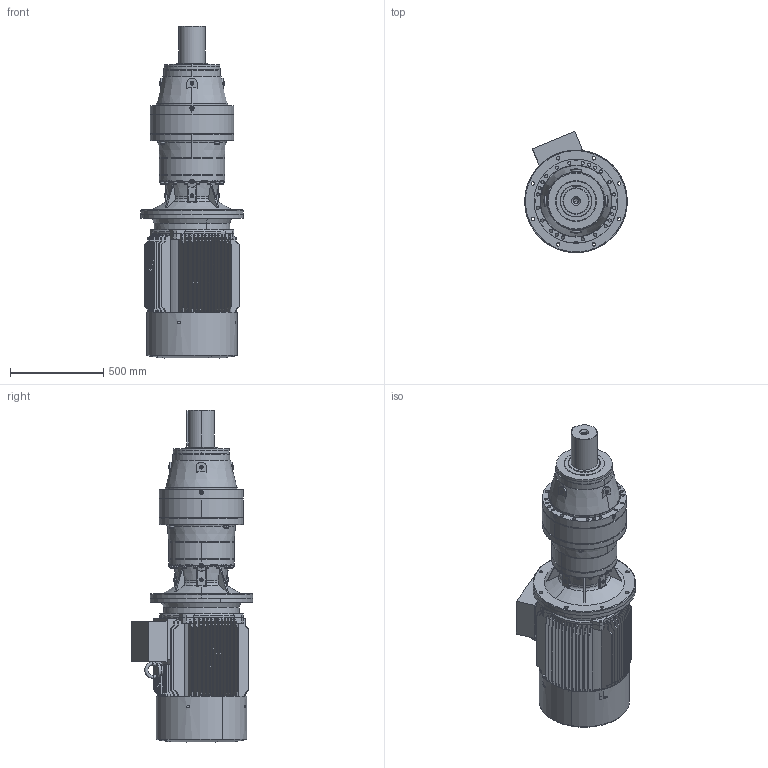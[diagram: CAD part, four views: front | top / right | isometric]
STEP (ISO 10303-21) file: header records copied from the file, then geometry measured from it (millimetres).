
FILE_DESCRIPTION (( 'STEP AP203' ), '1' );
FILE_NAME ('PVL-3502L-HS250-4.STEP', '2019-05-22T08:23:41', ( '' ), ( '' ), 'SwSTEP 2.0', 'SolidWorks 2012', '' );
FILE_SCHEMA (( 'CONFIG_CONTROL_DESIGN' ));
Products named in the file (16): Y2-250-4.6.8ú¼280-2Ã¦Íß¦ð-Ô©Ã_-¼+¤; Y2-250 B5+ｷﾎｨ_-ｼ+､; PNL_3502L_0_0_A25_B5_ML55A_FL17A_0_0_0_0_0_0_0_0_0_0_0_M1; Y2-250-4ﾍﾟ_-ｼ+､; EK3502L_Varsayìlan; 23250B5_Varsayìlan; FL17A_Varsayìlan; ML55A_Varsayìlan; P35_Varsayìlan; HS250M-4-B5; PVL-3502L-HS250-4; Y2-250-2.4.6.8ｦｾﾂ-ｩﾃ Y2-250-2ﾃｦﾂ-ｩﾃ_-ｼ+､; 280ﾁｧ+ﾀ_-ｼ+､; Y2-250-4.6.8-ｦﾈﾁﾂ-ｩﾃ_-ｼ+､; 250-4B5; Y2-250M-2.4.6.8ﾀiﾍ_-ｼ+､
Assembly tree (15 placements, depth 4):
  PVL-3502L-HS250-4
    PNL_3502L_0_0_A25_B5_ML55A_FL17A_0_0_0_0_0_0_0_0_0_0_0_M1
      P35_Varsayìlan
      23250B5_Varsayìlan
      ML55A_Varsayìlan
      EK3502L_Varsayìlan
      FL17A_Varsayìlan
    HS250M-4-B5
      250-4B5
        Y2-250-4.6.8ú¼280-2Ã¦Íß¦ð-Ô©Ã_-¼+¤
        Y2-250-4ﾍﾟ_-ｼ+､
        Y2-250 B5+ｷﾎｨ_-ｼ+､
        Y2-250M-2.4.6.8ﾀiﾍ_-ｼ+､
        Y2-250-2.4.6.8ｦｾﾂ-ｩﾃ Y2-250-2ﾃｦﾂ-ｩﾃ_-ｼ+､
        280ﾁｧ+ﾀ_-ｼ+､
        Y2-250-4.6.8-ｦﾈﾁﾂ-ｩﾃ_-ｼ+､
Bounding box: 550 x 650.24 x 1779.47 mm (x, y, z)
Volume: 112568592.9 mm3; surface area: 8251719.6 mm2
Topology: 16 solids, 16 shells, 2360 faces, 6143 edges, 3901 vertices
Faces by surface type: plane 854, cylinder 819, cone 371, bspline 316
Entity records: 89751 total; most frequent: CARTESIAN_POINT 31958, ORIENTED_EDGE 12138, DIRECTION 11238, EDGE_CURVE 6069, AXIS2_PLACEMENT_3D 4369, VERTEX_POINT 3901, EDGE_LOOP 2772, VECTOR 2500
